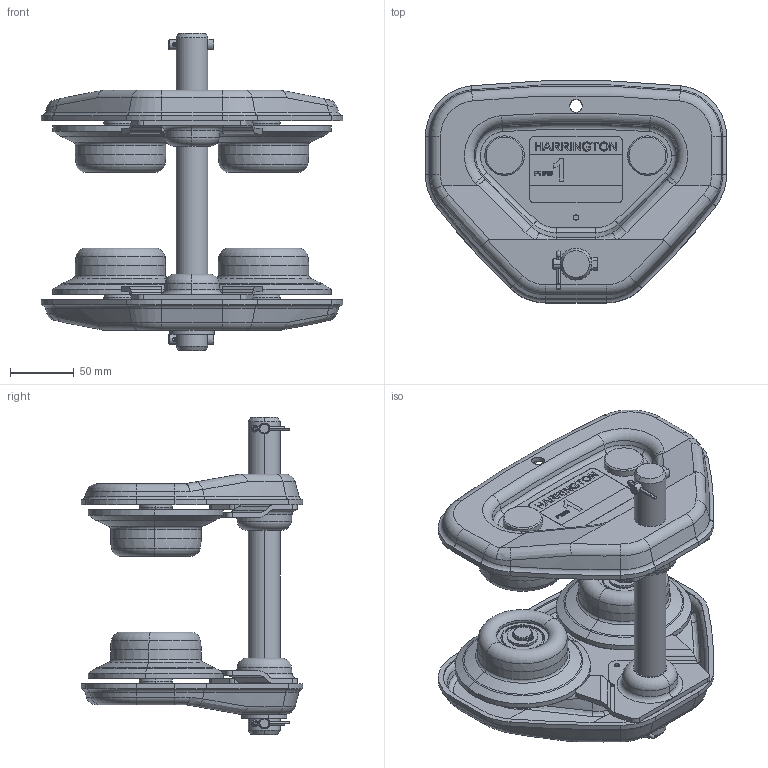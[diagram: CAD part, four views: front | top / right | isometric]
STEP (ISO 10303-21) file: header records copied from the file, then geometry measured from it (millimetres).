
FILE_DESCRIPTION (( 'STEP AP214' ), '1' );
FILE_NAME ('PTF2010.STEP', '2026-08-17T12:24:02', ( '' ), ( '' ), 'SwSTEP 2.0', 'SolidWorks 2026', '' );
FILE_SCHEMA (( 'AUTOMOTIVE_DESIGN' ));
Length unit declared in the file: inch
Products named in the file (15): T7G117010; T6GA0109112; T6G5112010; 9047115_9047115; 9009423_9009423; T6G800010P; T7G115010; PTF2010; 6302Z BEARING; T6GA0109103; T6G156010; T6G5102010; T6GA0109113; MS104010; T6GA0109101
Assembly tree (27 placements, depth 3):
  PTF2010
    T6G5112010  x2
      T6GA0109112
      T6GA0109113
      T6GA0109103
    T6G5102010  x4
      T6GA0109101
      6302Z BEARING
    MS104010  x4
    9047115_9047115  x4
    T6G800010P
    T7G115010
    T7G117010
    T6G156010  x2
    9009423_9009423  x2
Bounding box: 236 x 173.77 x 249 mm (x, y, z)
Volume: 807837.2 mm3; surface area: 430687.8 mm2
Topology: 27 solids, 43 shells, 2529 faces, 6551 edges, 4283 vertices
Faces by surface type: plane 1379, cylinder 558, torus 272, cone 176, bspline 144
Entity records: 30261 total; most frequent: CARTESIAN_POINT 9161, ORIENTED_EDGE 4380, DIRECTION 4016, EDGE_CURVE 2192, AXIS2_PLACEMENT_3D 1575, VERTEX_POINT 1460, EDGE_LOOP 920, LINE 866
